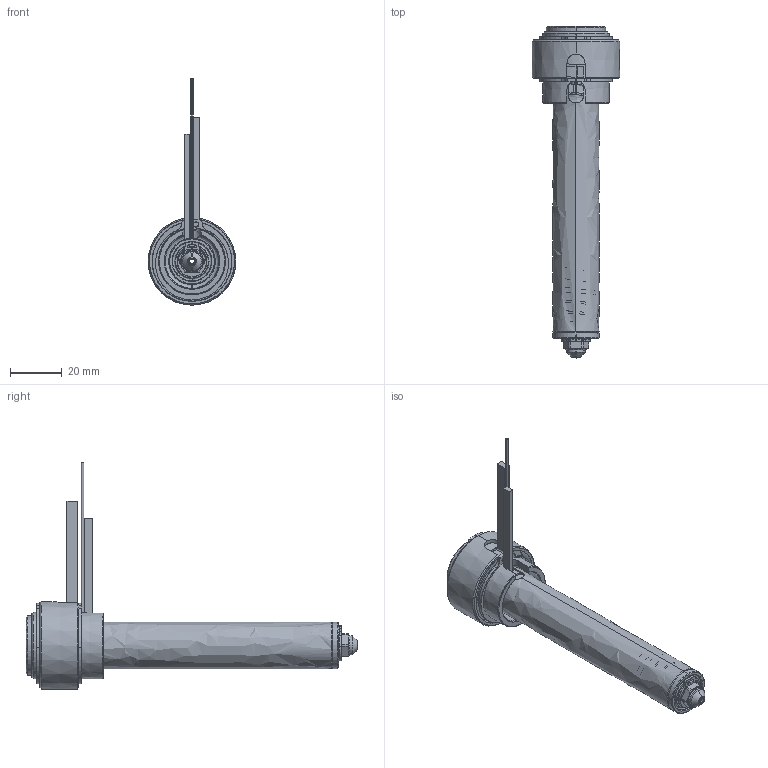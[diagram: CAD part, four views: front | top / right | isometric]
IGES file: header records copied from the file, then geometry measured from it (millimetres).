
Start section: SolidWorks IGES file using analytic representation for surfaces
Global section: file name: C:\Documents and Settings\ws-20\Desktop\TEM\UGER2504-M-A-1 [Øb-1.90 ØC-4.0].IGS; native system: SolidWorks 2012; preprocessor: SolidWorks 2012; author: ws-20; date: 120405.102106; units: millimetre
Bounding box: 34 x 128.9 x 87.9 mm (x, y, z)
Surface area: 21947.7 mm2 (no closed solid volume)
Topology: 0 solids, 0 shells, 184 faces, 2415 edges, 2415 vertices
Faces by surface type: revolution 114, bspline 70
